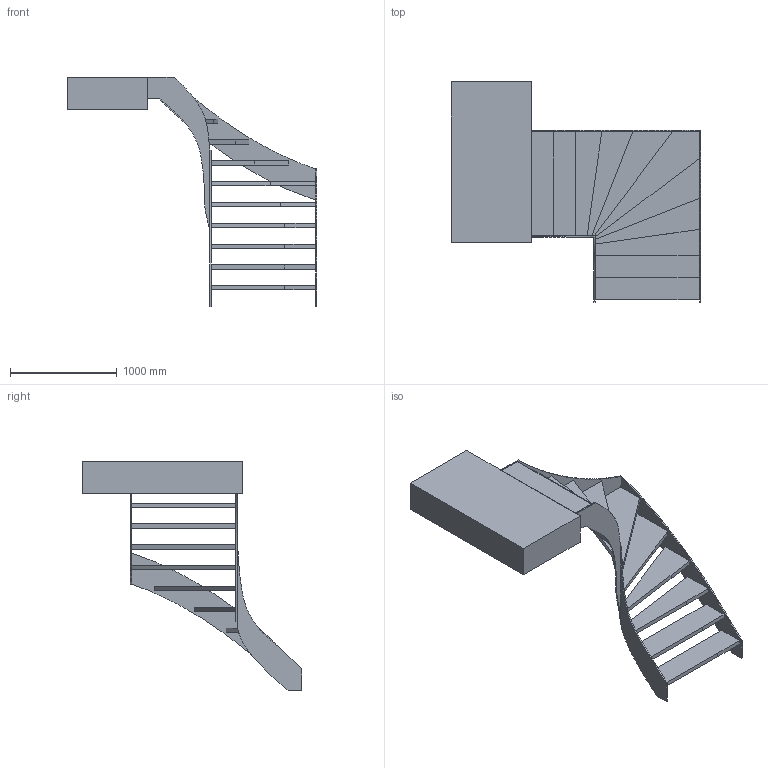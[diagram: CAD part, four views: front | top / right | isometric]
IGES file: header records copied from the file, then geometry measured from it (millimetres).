
Start section:             Generated by a .NET application based on Eyeshot              from devDept Software S.r.l. (www.devdept.com)
Global section: file name: Y:\Gesorteerde zaken\Trepedia\Website\Voorbeeldset output\trapdeel 1.igs; preprocessor: Eyeshot 2025.2.299; date: 20250930.112403; units: millimetre
Bounding box: 2335 x 2055 x 2142 mm (x, y, z)
Volume: 451118942.2 mm3; surface area: 12494278.3 mm2
Topology: 16 solids, 16 shells, 382 faces, 1050 edges, 700 vertices
Faces by surface type: extrusion 350, plane 32
